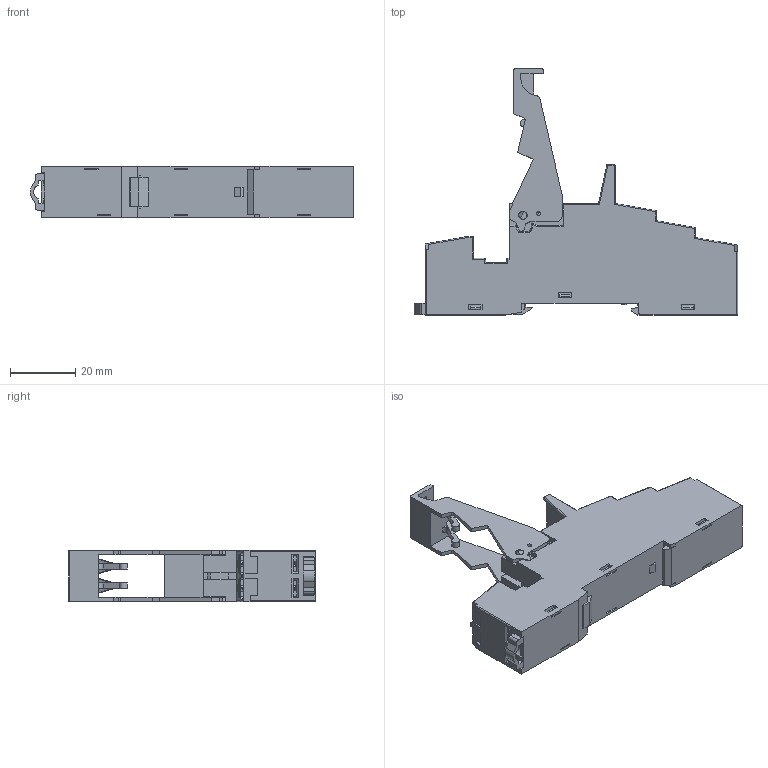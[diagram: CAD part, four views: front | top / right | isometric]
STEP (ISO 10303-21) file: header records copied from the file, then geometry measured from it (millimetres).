
FILE_DESCRIPTION(('STEP AP214'),'2;1');
FILE_NAME('95P5_with_095913.stp','2015-06-22T13:16:40',(''),(''),'2007.1.106','THINKDESIGN','');
FILE_SCHEMA(('AUTOMOTIVE_DESIGN'));
Length unit declared in the file: centimetre
Products named in the file (1): top
Bounding box: 98.9 x 75.26 x 15.8 mm (x, y, z)
Volume: 1805.1 mm3; surface area: 22666.6 mm2
Topology: 1 solids, 1 shells, 2794 faces, 15209 edges, 15092 vertices
Faces by surface type: plane 2061, cylinder 553, bspline 180
Full cylindrical faces by diameter (mm): 1.2 x4, 1.3 x2, 2.2 x8, 2.5 x2, 2.6 x2
Entity records: 130844 total; most frequent: CARTESIAN_POINT 41003, DIRECTION 19549, COMPOSITE_CURVE_SEGMENT 14866, TRIMMED_CURVE 13057, VECTOR 12433, LINE 12433, AXIS2_PLACEMENT_3D 3558, STYLED_ITEM 2680
